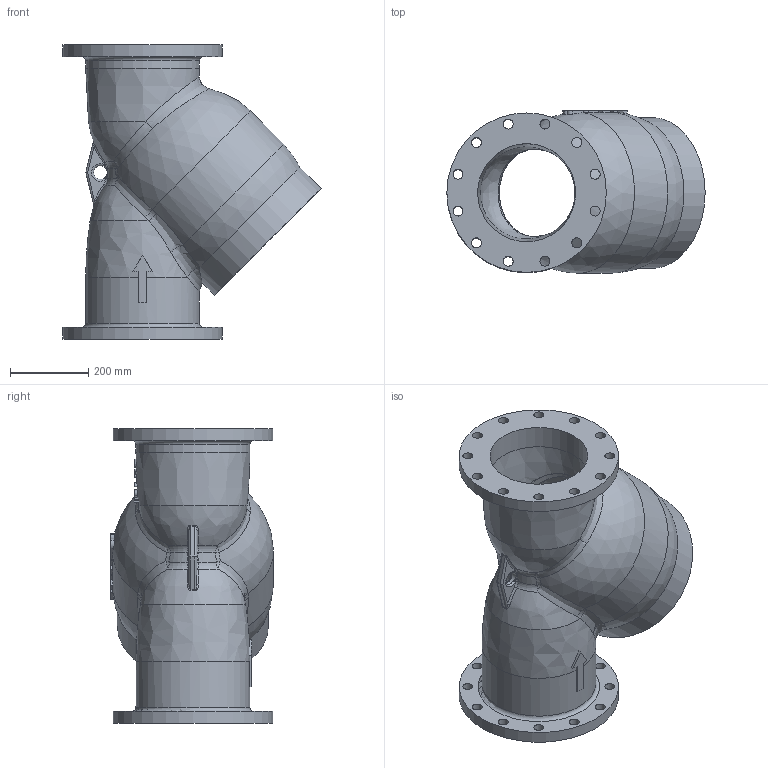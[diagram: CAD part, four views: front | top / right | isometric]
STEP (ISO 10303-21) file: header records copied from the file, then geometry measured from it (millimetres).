
FILE_DESCRIPTION( ( 'Unknown' ), '1' );
FILE_NAME( 'D:/Documentos Murilo/Desktop/VARB/2022/06 JUNHO/DESENHOS FILTRO Y 97/FILTRO 10/FILTRO_10_1.stp', 'Unknown', ( 'Unknown' ), ( 'Unknown' ), 'PSStep 11.0', 'Unknown', ' ' );
FILE_SCHEMA( ( 'AUTOMOTIVE_DESIGN { 1 0 10303 214 1 1 1 1 }' ) );
Length unit declared in the file: millimetre
Products named in the file (1): 1
Bounding box: 658.22 x 414.3 x 750 mm (x, y, z)
Volume: 22633643.5 mm3; surface area: 2179460.9 mm2
Topology: 1 solids, 1 shells, 298 faces, 744 edges, 473 vertices
Faces by surface type: plane 91, bspline 87, cylinder 77, extrusion 20, sphere 14, torus 9
Full cylindrical faces by diameter (mm): 15.87 x12, 25.4 x24, 35 x1, 250 x2, 290 x3, 385 x1, 406.4 x2
Entity records: 41463 total; most frequent: CARTESIAN_POINT 32769, ORIENTED_EDGE 1344, DIRECTION 1105, EDGE_CURVE 672, AXIS2_PLACEMENT_3D 460, VERTEX_POINT 456, EDGE_LOOP 431, FACE_OUTER_BOUND 352
